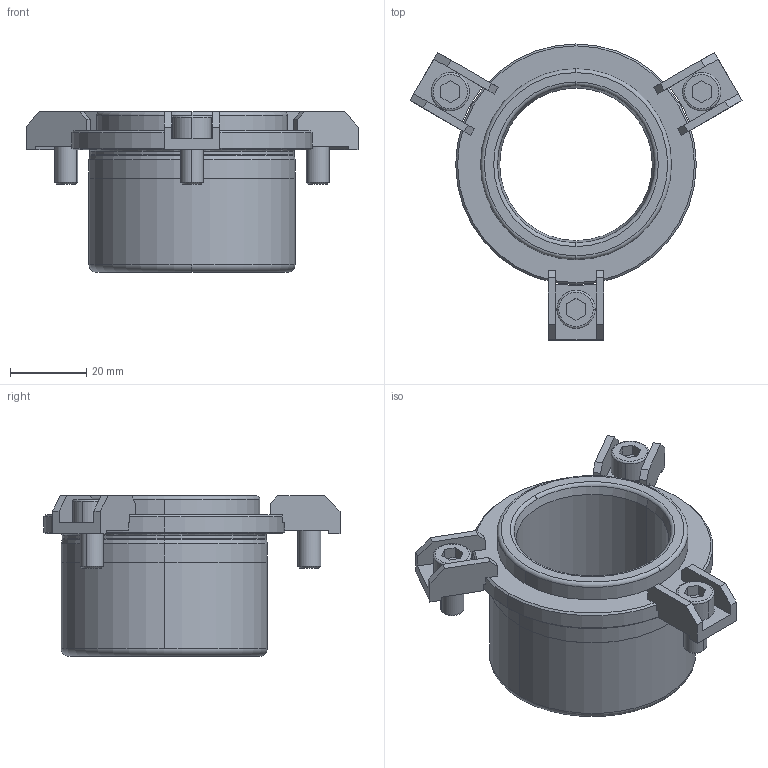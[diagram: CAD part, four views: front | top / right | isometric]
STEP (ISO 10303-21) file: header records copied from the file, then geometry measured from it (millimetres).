
FILE_DESCRIPTION((''),'2;1');
FILE_NAME('B42_032_032.stp','2008-11-04T14:31:55',(''),(''),'Mechanical Desktop 2009','Mechanical Desktop 2009',', , ');
FILE_SCHEMA(('CONFIG_CONTROL_DESIGN'));
Length unit declared in the file: millimetre
Products named in the file (2): Product; blmdl1
Assembly tree (1 placements, depth 2):
  Product
    blmdl1
Bounding box: 86.92 x 77.5 x 42 mm (x, y, z)
Volume: 50039.6 mm3; surface area: 20710.3 mm2
Topology: 7 solids, 7 shells, 185 faces, 474 edges, 312 vertices
Faces by surface type: plane 104, cylinder 39, cone 18, torus 14, bspline 10
Entity records: 6165 total; most frequent: CARTESIAN_POINT 1413, DIRECTION 1008, ORIENTED_EDGE 948, EDGE_CURVE 474, AXIS2_PLACEMENT_3D 357, VERTEX_POINT 312, VECTOR 294, LINE 294
